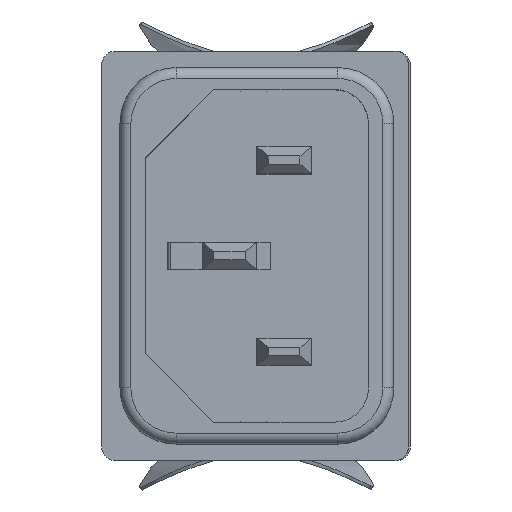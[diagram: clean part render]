
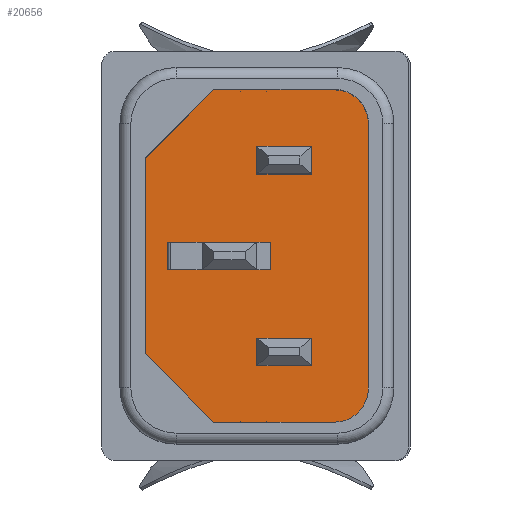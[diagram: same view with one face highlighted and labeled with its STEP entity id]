
A CAD part, top view. The second image highlights one B-rep face of the part: STEP entity #20656.
In plain terms, the highlighted planar face has unit normal (0, 0, 1).
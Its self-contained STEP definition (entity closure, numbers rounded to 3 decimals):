
#17911=CARTESIAN_POINT('',(39.15,47.509,37.5));
#17912=VERTEX_POINT('',#17911);
#17913=CARTESIAN_POINT('',(35.15,47.509,37.5));
#17914=VERTEX_POINT('',#17913);
#17915=CARTESIAN_POINT('',(39.15,47.509,37.5));
#17916=DIRECTION('',(-1.0,0.0,0.0));
#17917=VECTOR('',#17916,4.0);
#17918=LINE('',#17915,#17917);
#17919=EDGE_CURVE('',#17912,#17914,#17918,.T.);
#18061=CARTESIAN_POINT('',(35.15,49.509,37.5));
#18062=VERTEX_POINT('',#18061);
#18063=CARTESIAN_POINT('',(39.15,49.509,37.5));
#18064=VERTEX_POINT('',#18063);
#18065=CARTESIAN_POINT('',(35.15,49.509,37.5));
#18066=DIRECTION('',(1.0,0.0,0.0));
#18067=VECTOR('',#18066,4.0);
#18068=LINE('',#18065,#18067);
#18069=EDGE_CURVE('',#18062,#18064,#18068,.T.);
#18095=CARTESIAN_POINT('',(39.15,49.509,37.5));
#18096=DIRECTION('',(0.0,-1.0,0.0));
#18097=VECTOR('',#18096,2.0);
#18098=LINE('',#18095,#18097);
#18099=EDGE_CURVE('',#18064,#17912,#18098,.T.);
#18127=CARTESIAN_POINT('',(35.15,47.509,37.5));
#18128=DIRECTION('',(0.0,1.0,0.0));
#18129=VECTOR('',#18128,2.0);
#18130=LINE('',#18127,#18129);
#18131=EDGE_CURVE('',#17914,#18062,#18130,.T.);
#18250=CARTESIAN_POINT('',(29.099,40.509,37.5));
#18251=VERTEX_POINT('',#18250);
#18252=CARTESIAN_POINT('',(29.099,42.509,37.5));
#18253=VERTEX_POINT('',#18252);
#18254=CARTESIAN_POINT('',(29.099,40.509,37.5));
#18255=DIRECTION('',(0.0,1.0,0.0));
#18256=VECTOR('',#18255,2.);
#18257=LINE('',#18254,#18256);
#18258=EDGE_CURVE('',#18251,#18253,#18257,.T.);
#18322=CARTESIAN_POINT('',(36.15,40.509,37.5));
#18323=VERTEX_POINT('',#18322);
#18324=CARTESIAN_POINT('',(36.15,40.509,37.5));
#18325=DIRECTION('',(-1.0,0.0,0.0));
#18326=VECTOR('',#18325,7.051);
#18327=LINE('',#18324,#18326);
#18328=EDGE_CURVE('',#18323,#18251,#18327,.T.);
#18504=CARTESIAN_POINT('',(36.15,42.509,37.5));
#18505=VERTEX_POINT('',#18504);
#18506=CARTESIAN_POINT('',(29.099,42.509,37.5));
#18507=DIRECTION('',(1.0,0.0,0.0));
#18508=VECTOR('',#18507,7.051);
#18509=LINE('',#18506,#18508);
#18510=EDGE_CURVE('',#18253,#18505,#18509,.T.);
#18681=CARTESIAN_POINT('',(36.15,42.509,37.5));
#18682=DIRECTION('',(0.0,-1.0,0.0));
#18683=VECTOR('',#18682,2.);
#18684=LINE('',#18681,#18683);
#18685=EDGE_CURVE('',#18505,#18323,#18684,.T.);
#18969=CARTESIAN_POINT('',(39.15,33.509,37.5));
#18970=VERTEX_POINT('',#18969);
#18971=CARTESIAN_POINT('',(35.15,33.509,37.5));
#18972=VERTEX_POINT('',#18971);
#18973=CARTESIAN_POINT('',(39.15,33.509,37.5));
#18974=DIRECTION('',(-1.0,0.0,0.0));
#18975=VECTOR('',#18974,4.0);
#18976=LINE('',#18973,#18975);
#18977=EDGE_CURVE('',#18970,#18972,#18976,.T.);
#19119=CARTESIAN_POINT('',(35.15,35.509,37.5));
#19120=VERTEX_POINT('',#19119);
#19121=CARTESIAN_POINT('',(39.15,35.509,37.5));
#19122=VERTEX_POINT('',#19121);
#19123=CARTESIAN_POINT('',(35.15,35.509,37.5));
#19124=DIRECTION('',(1.0,0.0,0.0));
#19125=VECTOR('',#19124,4.);
#19126=LINE('',#19123,#19125);
#19127=EDGE_CURVE('',#19120,#19122,#19126,.T.);
#19153=CARTESIAN_POINT('',(39.15,35.509,37.5));
#19154=DIRECTION('',(0.0,-1.0,0.0));
#19155=VECTOR('',#19154,2.0);
#19156=LINE('',#19153,#19155);
#19157=EDGE_CURVE('',#19122,#18970,#19156,.T.);
#19185=CARTESIAN_POINT('',(35.15,33.509,37.5));
#19186=DIRECTION('',(0.0,1.0,0.0));
#19187=VECTOR('',#19186,2.0);
#19188=LINE('',#19185,#19187);
#19189=EDGE_CURVE('',#18972,#19120,#19188,.T.);
#20434=CARTESIAN_POINT('',(40.8,29.359,37.5));
#20435=VERTEX_POINT('',#20434);
#20436=CARTESIAN_POINT('',(43.3,31.859,37.5));
#20437=VERTEX_POINT('',#20436);
#20438=CARTESIAN_POINT('',(40.8,31.859,37.5));
#20439=DIRECTION('',(0.0,0.0,1.0));
#20440=DIRECTION('',(0.0,-1.0,0.0));
#20441=AXIS2_PLACEMENT_3D('',#20438,#20439,#20440);
#20442=CIRCLE('',#20441,2.5);
#20443=EDGE_CURVE('',#20435,#20437,#20442,.T.);
#20466=CARTESIAN_POINT('',(43.3,51.159,37.5));
#20467=VERTEX_POINT('',#20466);
#20468=CARTESIAN_POINT('',(43.3,31.859,37.5));
#20469=DIRECTION('',(0.0,1.0,0.0));
#20470=VECTOR('',#20469,19.3);
#20471=LINE('',#20468,#20470);
#20472=EDGE_CURVE('',#20437,#20467,#20471,.T.);
#20490=CARTESIAN_POINT('',(40.8,53.659,37.5));
#20491=VERTEX_POINT('',#20490);
#20492=CARTESIAN_POINT('',(40.8,51.159,37.5));
#20493=DIRECTION('',(0.0,0.0,1.0));
#20494=DIRECTION('',(1.0,0.0,0.0));
#20495=AXIS2_PLACEMENT_3D('',#20492,#20493,#20494);
#20496=CIRCLE('',#20495,2.5);
#20497=EDGE_CURVE('',#20467,#20491,#20496,.T.);
#20515=CARTESIAN_POINT('',(32.,53.659,37.5));
#20516=VERTEX_POINT('',#20515);
#20517=CARTESIAN_POINT('',(40.8,53.659,37.5));
#20518=DIRECTION('',(-1.0,0.0,0.0));
#20519=VECTOR('',#20518,8.8);
#20520=LINE('',#20517,#20519);
#20521=EDGE_CURVE('',#20491,#20516,#20520,.T.);
#20539=CARTESIAN_POINT('',(27.,48.659,37.5));
#20540=VERTEX_POINT('',#20539);
#20541=CARTESIAN_POINT('',(32.,53.659,37.5));
#20542=DIRECTION('',(-0.707,-0.707,0.0));
#20543=VECTOR('',#20542,7.071);
#20544=LINE('',#20541,#20543);
#20545=EDGE_CURVE('',#20516,#20540,#20544,.T.);
#20563=CARTESIAN_POINT('',(27.,34.359,37.5));
#20564=VERTEX_POINT('',#20563);
#20565=CARTESIAN_POINT('',(27.,48.659,37.5));
#20566=DIRECTION('',(0.0,-1.0,0.0));
#20567=VECTOR('',#20566,14.3);
#20568=LINE('',#20565,#20567);
#20569=EDGE_CURVE('',#20540,#20564,#20568,.T.);
#20587=CARTESIAN_POINT('',(32.,29.359,37.5));
#20588=VERTEX_POINT('',#20587);
#20589=CARTESIAN_POINT('',(27.,34.359,37.5));
#20590=DIRECTION('',(0.707,-0.707,0.0));
#20591=VECTOR('',#20590,7.071);
#20592=LINE('',#20589,#20591);
#20593=EDGE_CURVE('',#20564,#20588,#20592,.T.);
#20611=CARTESIAN_POINT('',(32.,29.359,37.5));
#20612=DIRECTION('',(1.0,0.0,0.0));
#20613=VECTOR('',#20612,8.8);
#20614=LINE('',#20611,#20613);
#20615=EDGE_CURVE('',#20588,#20435,#20614,.T.);
#20623=CARTESIAN_POINT('',(35.689,41.509,37.5));
#20624=DIRECTION('',(0.0,0.0,-1.0));
#20625=DIRECTION('',(1.0,0.0,0.0));
#20626=AXIS2_PLACEMENT_3D('',#20623,#20624,#20625);
#20627=PLANE('',#20626);
#20628=ORIENTED_EDGE('',*,*,#20443,.T.);
#20629=ORIENTED_EDGE('',*,*,#20472,.T.);
#20630=ORIENTED_EDGE('',*,*,#20497,.T.);
#20631=ORIENTED_EDGE('',*,*,#20521,.T.);
#20632=ORIENTED_EDGE('',*,*,#20545,.T.);
#20633=ORIENTED_EDGE('',*,*,#20569,.T.);
#20634=ORIENTED_EDGE('',*,*,#20593,.T.);
#20635=ORIENTED_EDGE('',*,*,#20615,.T.);
#20636=EDGE_LOOP('',(#20628,#20629,#20630,#20631,#20632,#20633,#20634,#20635));
#20637=FACE_OUTER_BOUND('',#20636,.T.);
#20638=ORIENTED_EDGE('',*,*,#18069,.T.);
#20639=ORIENTED_EDGE('',*,*,#18099,.T.);
#20640=ORIENTED_EDGE('',*,*,#17919,.T.);
#20641=ORIENTED_EDGE('',*,*,#18131,.T.);
#20642=EDGE_LOOP('',(#20638,#20639,#20640,#20641));
#20643=FACE_BOUND('',#20642,.T.);
#20644=ORIENTED_EDGE('',*,*,#18328,.T.);
#20645=ORIENTED_EDGE('',*,*,#18258,.T.);
#20646=ORIENTED_EDGE('',*,*,#18510,.T.);
#20647=ORIENTED_EDGE('',*,*,#18685,.T.);
#20648=EDGE_LOOP('',(#20644,#20645,#20646,#20647));
#20649=FACE_BOUND('',#20648,.T.);
#20650=ORIENTED_EDGE('',*,*,#19127,.T.);
#20651=ORIENTED_EDGE('',*,*,#19157,.T.);
#20652=ORIENTED_EDGE('',*,*,#18977,.T.);
#20653=ORIENTED_EDGE('',*,*,#19189,.T.);
#20654=EDGE_LOOP('',(#20650,#20651,#20652,#20653));
#20655=FACE_BOUND('',#20654,.T.);
#20656=ADVANCED_FACE('',(#20637,#20643,#20649,#20655),#20627,.F.);
